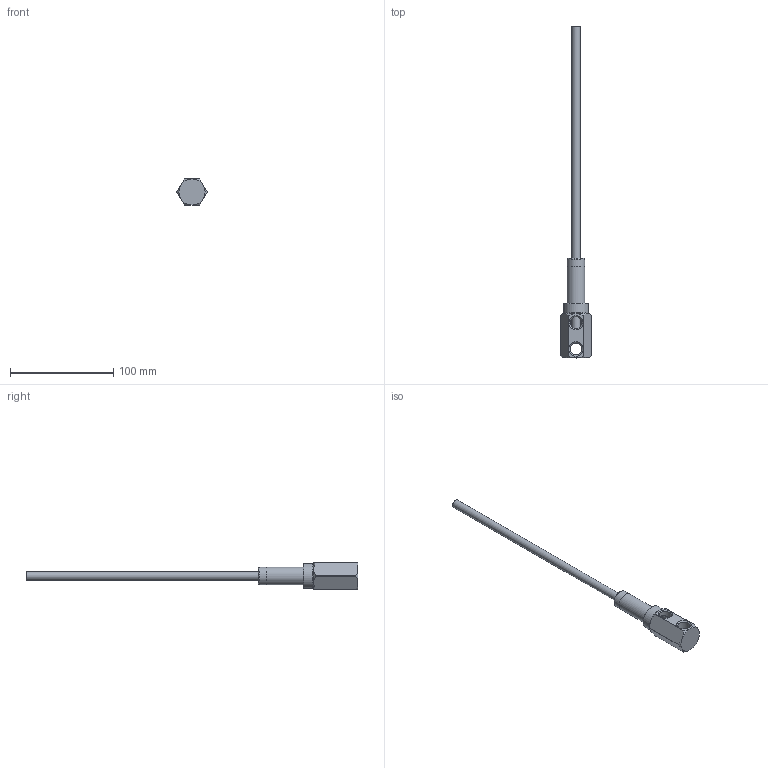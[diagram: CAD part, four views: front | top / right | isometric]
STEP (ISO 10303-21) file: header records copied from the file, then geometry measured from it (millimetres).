
FILE_DESCRIPTION(/* description */ (''),/* implementation_level */ '2;1');
FILE_NAME(/* name */ 'C:/Users/drich/Desktop/381N-4-HFT v1.step',/* time_stamp */ '2020-01-15T19:37:52-06:00',/* author */ (''),/* organization */ (''),/* preprocessor_version */ 'ST-DEVELOPER v18',/* originating_system */ 'Autodesk Translation Framework v8.12.0.6',/* authorisation */ '');
FILE_SCHEMA (('AUTOMOTIVE_DESIGN { 1 0 10303 214 3 1 1 }'));
Length unit declared in the file: inch
Products named in the file (4): 381N-4-HFT; 381H-4; SSPN38-2; HF312T-12
Assembly tree (3 placements, depth 2):
  381N-4-HFT
    381H-4
    SSPN38-2
    HF312T-12
Bounding box: 29.26 x 321.39 x 25.4 mm (x, y, z)
Volume: 27075.9 mm3; surface area: 27232.5 mm2
Topology: 3 solids, 3 shells, 53 faces, 143 edges, 99 vertices
Faces by surface type: cylinder 20, plane 16, cone 12, torus 5
Full cylindrical faces by diameter (mm): 7.315 x1, 7.925 x1, 8.509 x1, 9.406 x1, 9.576 x1, 11.668 x3, 12.522 x1, 15.173 x1, 17.094 x2, 17.145 x1, 23.8 x1
Entity records: 1944 total; most frequent: CARTESIAN_POINT 431, DIRECTION 324, ORIENTED_EDGE 286, AXIS2_PLACEMENT_3D 144, EDGE_CURVE 143, VERTEX_POINT 99, CIRCLE 84, EDGE_LOOP 66
